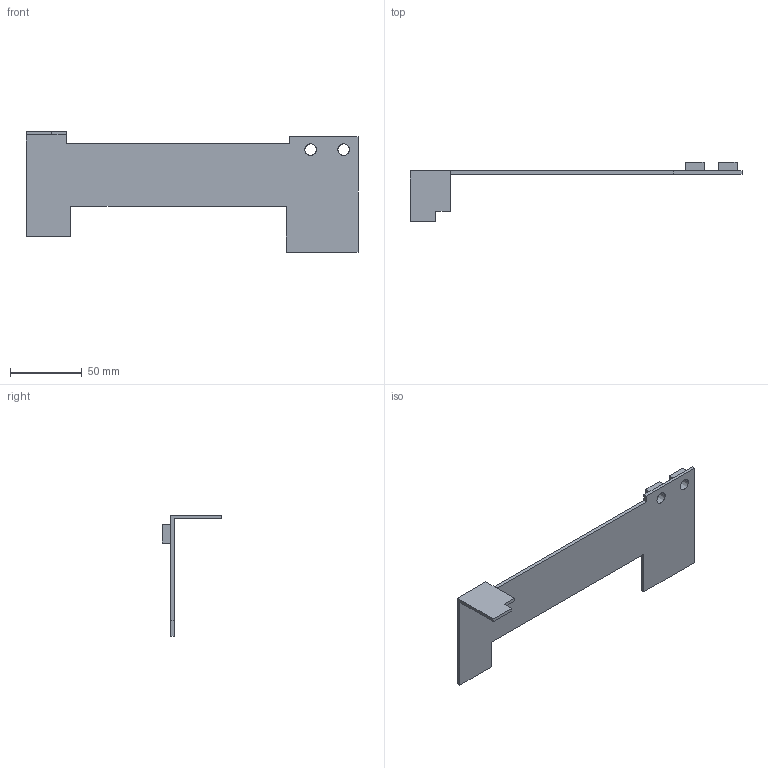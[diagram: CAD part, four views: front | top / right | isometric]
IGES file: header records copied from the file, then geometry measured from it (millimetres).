
Start section:  PTC IGES file: j4-22k-base2.igs
Global section: file name: j4-22k-base2.igs; native system: Pro/ENGINEER by Parametric Technology Corporation; preprocessor: 2010160; author: JE18792; organization: Unknown; date: 20121101.154059; units: millimetre
Bounding box: 231.1 x 41.4 x 84 mm (x, y, z)
Volume: 32624.9 mm3; surface area: 29848 mm2
Topology: 1 solids, 1 shells, 32 faces, 84 edges, 56 vertices
Faces by surface type: bspline 32
